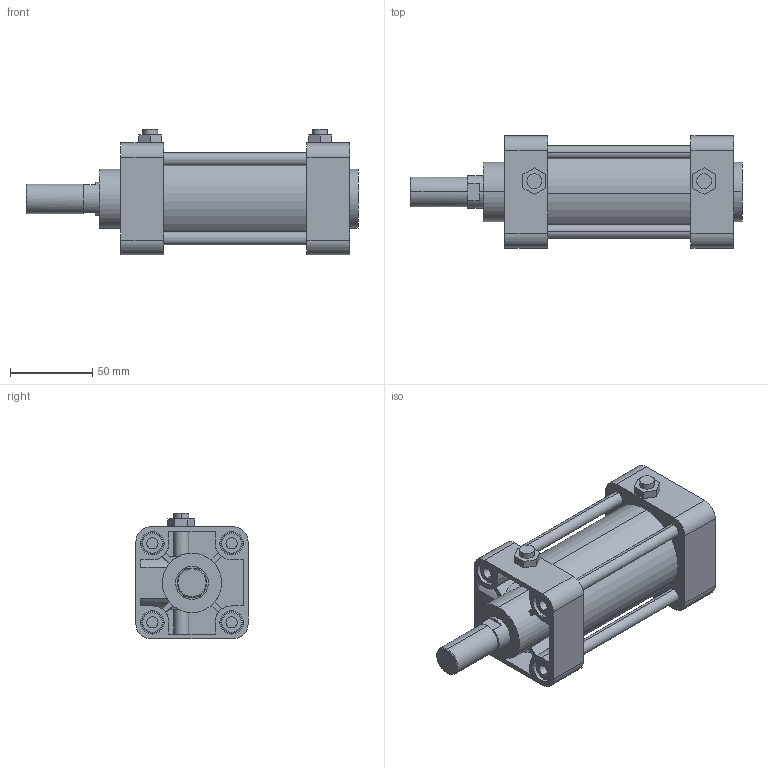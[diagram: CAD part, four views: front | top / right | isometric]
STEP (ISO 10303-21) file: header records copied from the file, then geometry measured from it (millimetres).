
FILE_DESCRIPTION (( 'STEP AP203' ), '1' );
FILE_NAME ('KG2-50-50-N.STEP', '2016-04-01T08:13:08', ( '' ), ( '' ), 'SwSTEP 2.0', 'SolidWorks 2014', '' );
FILE_SCHEMA (( 'CONFIG_CONTROL_DESIGN' ));
Length unit declared in the file: millimetre
Products named in the file (6): KG2-50-50-N; KGLH2-50-50; KG2-50-After
Assembly tree (15 placements, depth 2):
  KG2-50-50-N
    KG2-50-After
    KGLH2-50-50
    (unnamed)
    (unnamed)  x4
    (unnamed)  x8
Bounding box: 201.5 x 68 x 76.3 mm (x, y, z)
Volume: 436422.5 mm3; surface area: 99242.3 mm2
Topology: 15 solids, 19 shells, 325 faces, 752 edges, 480 vertices
Faces by surface type: plane 141, cylinder 126, torus 32, cone 26
Entity records: 7996 total; most frequent: CARTESIAN_POINT 1487, DIRECTION 1230, ORIENTED_EDGE 1124, EDGE_CURVE 562, AXIS2_PLACEMENT_3D 457, VERTEX_POINT 370, VECTOR 316, LINE 316
